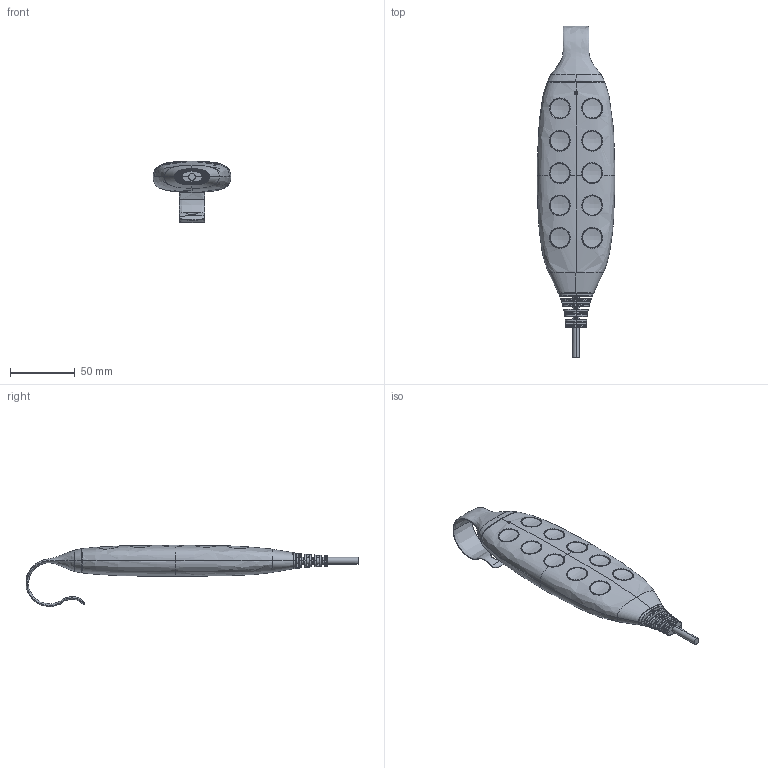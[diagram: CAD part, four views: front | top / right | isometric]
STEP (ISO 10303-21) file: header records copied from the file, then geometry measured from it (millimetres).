
FILE_DESCRIPTION (( 'STEP AP203' ), '1' );
FILE_NAME ('產品三維模型圖-TMH17-A.STEP', '2019-04-25T09:53:47', ( '' ), ( '' ), 'SwSTEP 2.0', 'SolidWorks 2015', '' );
FILE_SCHEMA (( 'CONFIG_CONTROL_DESIGN' ));
Length unit declared in the file: millimetre
Products named in the file (1): 產品三維模型圖-TMH17-A
Bounding box: 60 x 256.55 x 47.49 mm (x, y, z)
Volume: 182272.5 mm3; surface area: 56542.3 mm2
Topology: 17 solids, 17 shells, 521 faces, 1262 edges, 779 vertices
Faces by surface type: bspline 270, cylinder 142, plane 89, torus 10, cone 9, sphere 1
Entity records: 52593 total; most frequent: CARTESIAN_POINT 42862, ORIENTED_EDGE 2510, EDGE_CURVE 1255, DIRECTION 1236, VERTEX_POINT 778, B_SPLINE_CURVE_WITH_KNOTS 697, EDGE_LOOP 533, FACE_OUTER_BOUND 521
